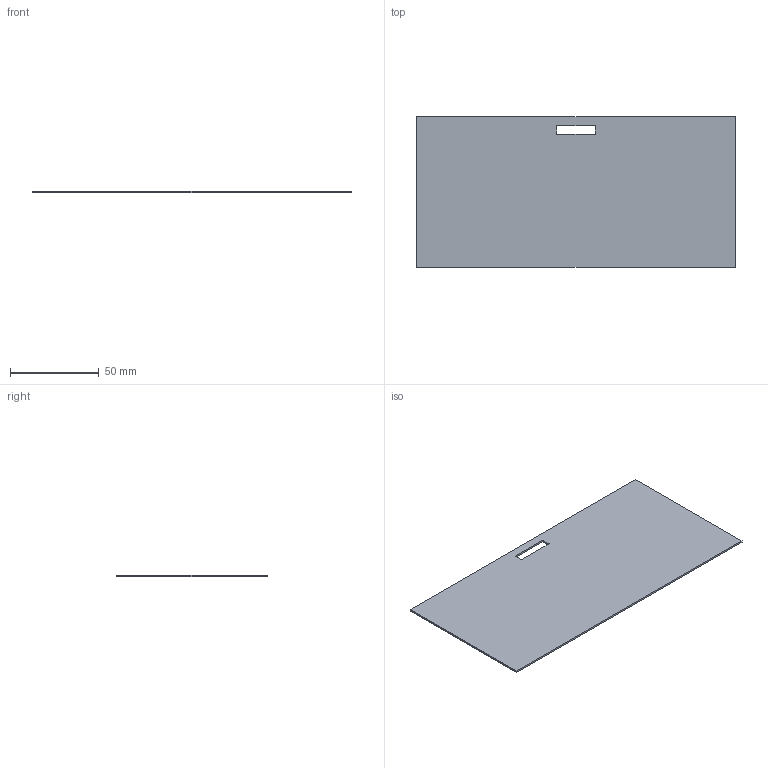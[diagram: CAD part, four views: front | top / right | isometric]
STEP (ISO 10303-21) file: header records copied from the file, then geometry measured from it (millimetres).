
FILE_DESCRIPTION (( 'STEP AP203' ), '1' );
FILE_NAME ('015.300.009.STEP', '2016-10-24T08:53:35', ( '' ), ( '' ), 'SwSTEP 2.0', 'SolidWorks 2016', '' );
FILE_SCHEMA (( 'CONFIG_CONTROL_DESIGN' ));
Length unit declared in the file: millimetre
Products named in the file (1): 015.300.009
Bounding box: 180 x 85 x 1 mm (x, y, z)
Volume: 15190 mm3; surface area: 30964 mm2
Topology: 1 solids, 1 shells, 10 faces, 24 edges, 16 vertices
Faces by surface type: plane 10
Entity records: 369 total; most frequent: CARTESIAN_POINT 51, ORIENTED_EDGE 48, DIRECTION 46, LINE 24, EDGE_CURVE 24, VECTOR 24, VERTEX_POINT 16, EDGE_LOOP 12
